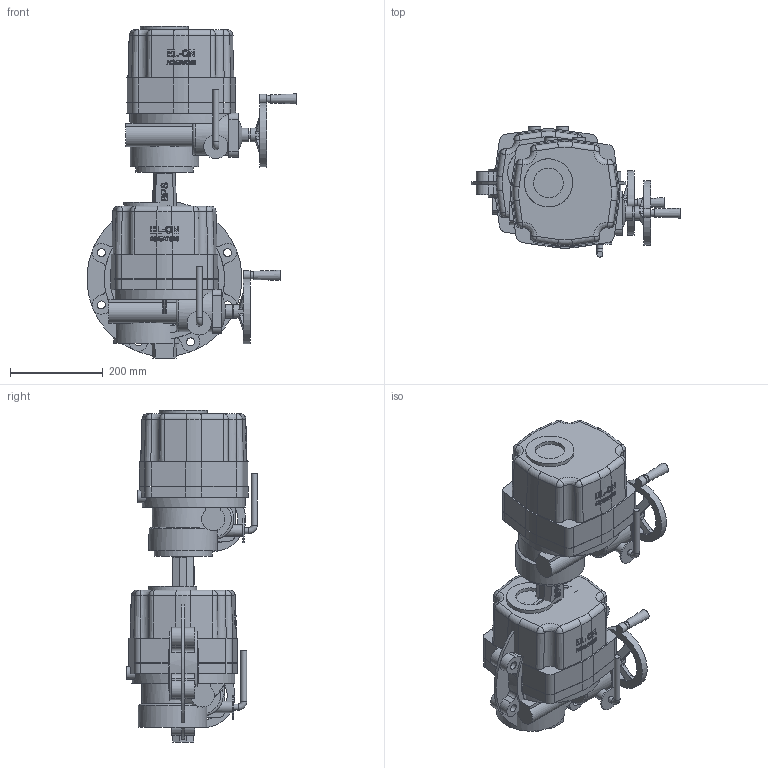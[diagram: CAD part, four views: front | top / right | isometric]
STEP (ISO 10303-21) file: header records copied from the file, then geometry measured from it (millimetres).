
FILE_DESCRIPTION( ( 'Unknown' ), '1' );
FILE_NAME( 'R:/ECCUA/ROOTSI BPS 3D vidinad/Poordklapid Lug type/Butterfly valve(lug) with electric actuator BPS/STEP formaat/BPS 2313200E(R) butterfly valve DN200.stp', 'Unknown', ( 'Unknown' ), ( 'Unknown' ), 'PSStep 10.1', 'Unknown', ' ' );
FILE_SCHEMA( ( 'AUTOMOTIVE_DESIGN { 1 0 10303 214 1 1 1 1 }' ) );
Length unit declared in the file: millimetre
Products named in the file (3): Assem1; BPS 8005300-500 electric actuator DN200-350; Butterfly valve lug type DN200 PN10 BPS
Bounding box: 452.98 x 282 x 717 mm (x, y, z)
Volume: 28554797.5 mm3; surface area: 1653686.6 mm2
Topology: 4 solids, 4 shells, 1182 faces, 3124 edges, 2026 vertices
Faces by surface type: plane 498, cylinder 334, bspline 126, cone 96, extrusion 82, torus 30, sphere 16
Full cylindrical faces by diameter (mm): 8.376 x16, 10.106 x16, 11 x8, 13 x4, 15 x2, 17.294 x16, 18 x2, 25 x2, 27 x4, 30 x4, 35 x2, 52 x2, 64 x2, 104 x2, 106 x2, 125 x2, 134 x2, 148 x2, 200 x2, 235 x4, 260 x4
Entity records: 33730 total; most frequent: CARTESIAN_POINT 15501, ORIENTED_EDGE 2886, DIRECTION 2467, EDGE_CURVE 1443, VERTEX_POINT 982, AXIS2_PLACEMENT_3D 944, EDGE_LOOP 747, FACE_OUTER_BOUND 649
